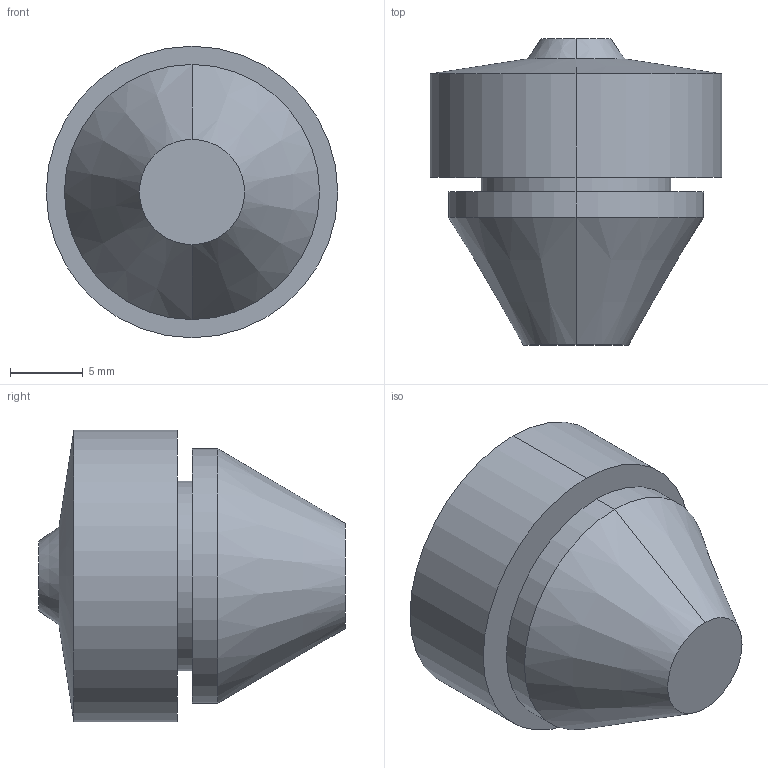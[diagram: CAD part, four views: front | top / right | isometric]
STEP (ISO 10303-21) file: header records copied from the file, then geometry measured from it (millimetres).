
FILE_DESCRIPTION (( 'STEP AP203' ), '1' );
FILE_NAME ('100723.STEP', '2012-10-29T10:17:51', ( 'Joni' ), ( 'Hewlett-Packard Company' ), 'SwSTEP 2.0', 'SolidWorks 2012', '' );
FILE_SCHEMA (( 'CONFIG_CONTROL_DESIGN' ));
Length unit declared in the file: millimetre
Products named in the file (1): 100723
Bounding box: 20 x 21 x 20 mm (x, y, z)
Volume: 4086 mm3; surface area: 1637.6 mm2
Topology: 1 solids, 1 shells, 16 faces, 30 edges, 18 vertices
Faces by surface type: cone 6, cylinder 6, plane 4
Entity records: 481 total; most frequent: DIRECTION 82, CARTESIAN_POINT 65, ORIENTED_EDGE 60, AXIS2_PLACEMENT_3D 35, EDGE_CURVE 30, VERTEX_POINT 18, EDGE_LOOP 18, CIRCLE 18
